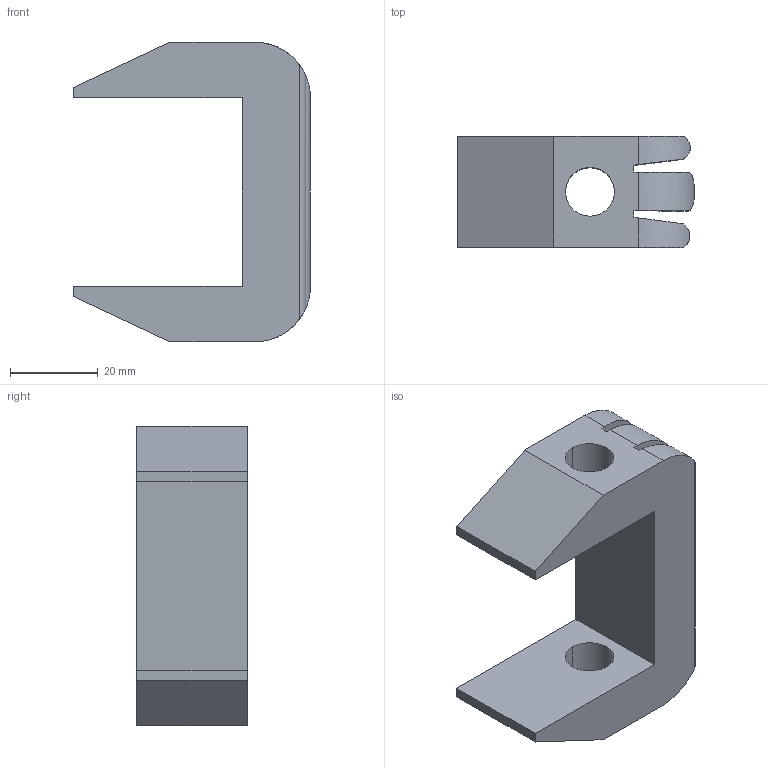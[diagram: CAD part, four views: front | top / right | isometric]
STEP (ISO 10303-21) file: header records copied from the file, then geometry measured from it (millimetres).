
FILE_DESCRIPTION(('TurboCAD Mac Pro'),'Build 980');
FILE_NAME('PLF9037.stp',' ',(''),(''),'ACIS Interop','IMSI','TurboCAD Mac Pro BY IMSI, INCORPORATED');
FILE_SCHEMA(('automotive_design'));
Length unit declared in the file: inch
Products named in the file (1): 1
Bounding box: 53.98 x 25.22 x 68.26 mm (x, y, z)
Volume: 36455.3 mm3; surface area: 14145.5 mm2
Topology: 1 solids, 1 shells, 37 faces, 105 edges, 70 vertices
Faces by surface type: bspline 20, plane 17
Entity records: 1736 total; most frequent: CARTESIAN_POINT 584, ORIENTED_EDGE 210, EDGE_CURVE 105, DIRECTION 100, VERTEX_POINT 70, LINE 64, VECTOR 64, EDGE_LOOP 41
